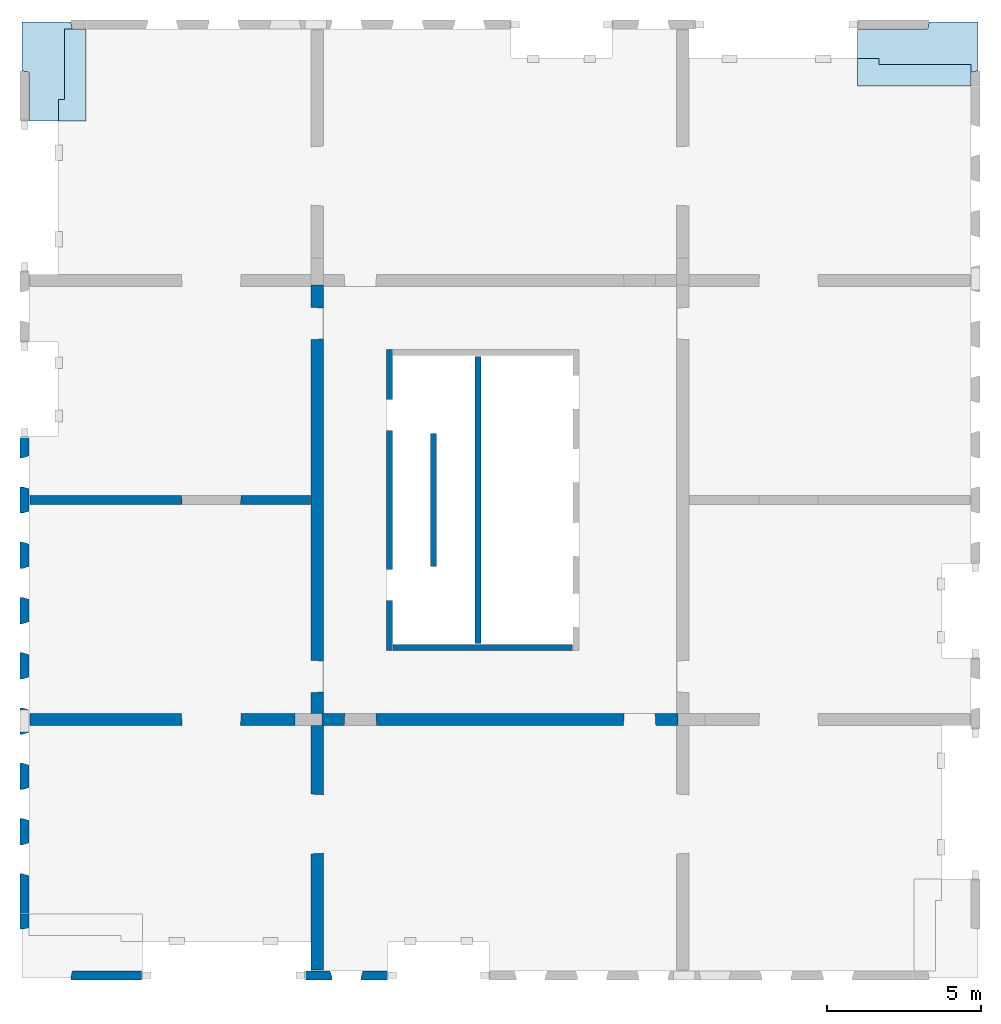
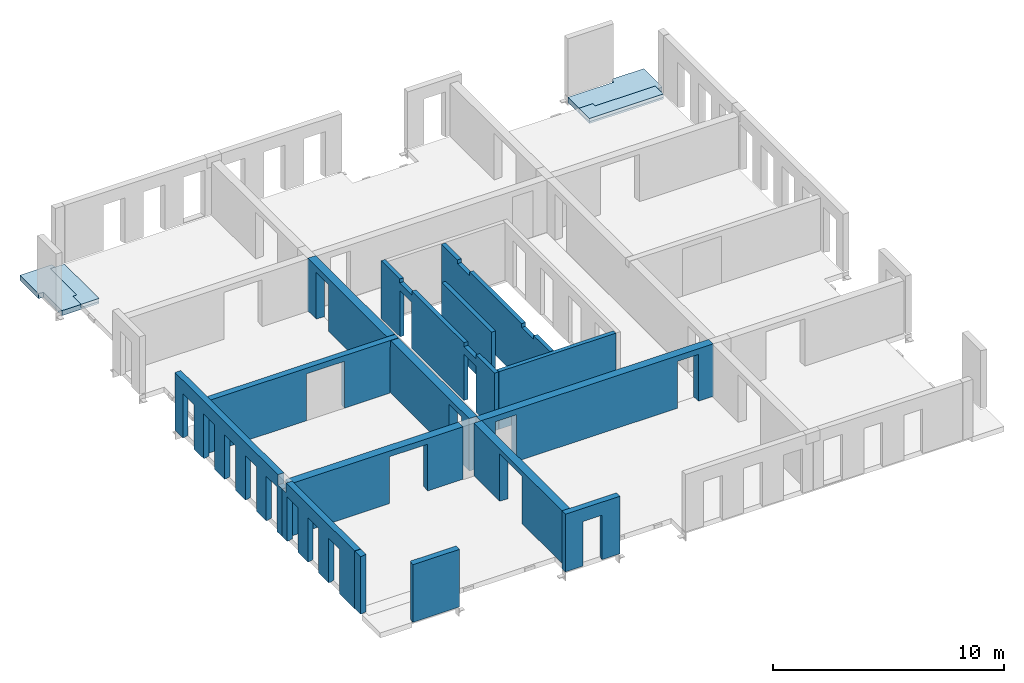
# One storey, part 2 of 4: 14 walls, 4 slabs, 34 openings.
"""IFC2X3 building model written with IfcOpenShell, lengths in millimetres."""

from ifc_helpers import new_model, entity, si_unit, converted_unit, derived_unit, direction, frame, frame_2d, origin, place, context, subcontext, project, spatial, polyline, rectangle, outline, extrude, faceted_brep, material, layer, layer_set, layer_usage, type_object, element, save


model = new_model("IFC2X3")

# Units and contexts
model_context = context("Model", 3, precision=0.01, world=origin(), true_north=direction((6.12303176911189e-17, 1.0)))
body_context = subcontext(model_context, "Body", "Model", "MODEL_VIEW")
ifc_project = project(units=[si_unit("LENGTHUNIT", "METRE", prefix="MILLI"), si_unit("AREAUNIT", "SQUARE_METRE"), si_unit("VOLUMEUNIT", "CUBIC_METRE"), converted_unit("PLANEANGLEUNIT", "DEGREE", entity("IfcRatioMeasure", 0.0174532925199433), si_unit("PLANEANGLEUNIT", "RADIAN"), dimensions=[0, 0, 0, 0, 0, 0, 0]), si_unit("MASSUNIT", "GRAM", prefix="KILO"), derived_unit("MASSDENSITYUNIT", [(si_unit("MASSUNIT", "GRAM", prefix="KILO"), 1), (si_unit("LENGTHUNIT", "METRE"), -3)]), si_unit("TIMEUNIT", "SECOND"), si_unit("FREQUENCYUNIT", "HERTZ"), si_unit("THERMODYNAMICTEMPERATUREUNIT", "DEGREE_CELSIUS"), derived_unit("THERMALTRANSMITTANCEUNIT", [(si_unit("MASSUNIT", "GRAM", prefix="KILO"), 1), (si_unit("THERMODYNAMICTEMPERATUREUNIT", "KELVIN"), -1), (si_unit("TIMEUNIT", "SECOND"), -3)]), derived_unit("VOLUMETRICFLOWRATEUNIT", [(si_unit("LENGTHUNIT", "METRE"), 3), (si_unit("TIMEUNIT", "SECOND"), -1)]), si_unit("ELECTRICCURRENTUNIT", "AMPERE"), si_unit("ELECTRICVOLTAGEUNIT", "VOLT"), si_unit("POWERUNIT", "WATT"), si_unit("FORCEUNIT", "NEWTON", prefix="KILO"), si_unit("ILLUMINANCEUNIT", "LUX"), si_unit("LUMINOUSFLUXUNIT", "LUMEN"), si_unit("LUMINOUSINTENSITYUNIT", "CANDELA"), derived_unit("USERDEFINED", [(si_unit("MASSUNIT", "GRAM", prefix="KILO"), -1), (si_unit("LENGTHUNIT", "METRE"), -2), (si_unit("TIMEUNIT", "SECOND"), 3), (si_unit("LUMINOUSFLUXUNIT", "LUMEN"), 1)]), derived_unit("LINEARVELOCITYUNIT", [(si_unit("LENGTHUNIT", "METRE"), 1), (si_unit("TIMEUNIT", "SECOND"), -1)]), si_unit("PRESSUREUNIT", "PASCAL"), derived_unit("USERDEFINED", [(si_unit("LENGTHUNIT", "METRE"), -2), (si_unit("MASSUNIT", "GRAM", prefix="KILO"), 1), (si_unit("TIMEUNIT", "SECOND"), -2)])], contexts=[model_context])

# Site, building, storey
site_placement = place(None, origin())
site = spatial("IfcSite", under=ifc_project, at=site_placement, Name="Default", CompositionType="ELEMENT")
building_placement = place(site_placement, origin())
building = spatial("IfcBuilding", under=site, at=building_placement, Name="niet gebruiken", CompositionType="ELEMENT")
storey_placement = place(building_placement, frame((0.0, 0.0, 109800.0)))
storey = spatial("IfcBuildingStorey", under=building, at=storey_placement, Name="35 vijfendertigste verdieping", CompositionType="ELEMENT", Elevation=109800.0)

# Slabs
ifc_material_1 = material(Name="NLRS_f2_beton prefab")
ifc_layer_1 = layer(ifc_material_1, 270.0)
ifc_layer_set_1 = layer_set([ifc_layer_1], Name="Floor:NLRS_23.22_FL_beton prefab d=270 3D element_gen")
ifc_layer_usage_1 = layer_usage(ifc_layer_set_1, "AXIS3", "POSITIVE", 0.0)
slab_1_placement = place(storey_placement, origin())
element("IfcSlab", 1, at=slab_1_placement, inside=storey, material=ifc_layer_usage_1, Name="Floor:NLRS_23.22_FL_beton prefab d=270 3D element_gen", ObjectType="Floor:NLRS_23.22_FL_beton prefab d=270 3D element_gen", PredefinedType="LANDING", context=body_context, shape_type="SweptSolid", body=[
    extrude(outline(polyline([(-322.675940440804, -982.471394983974), (1267.47139498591, -982.471394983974), (1267.47139498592, 607.675940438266), (1034.47139498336, 655.152429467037), (1034.47139498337, 1100.5286050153), (-1955.52860501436, 1100.52860501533), (-1955.52860501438, -749.471394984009), (-370.152429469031, -749.471394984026), (-322.675940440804, -982.471394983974)])), frame((127169.471394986, 31795.5286050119, -90.0), z_axis=(0.0, 0.0, -1.0), x_axis=(0.0, 1.0, 0.0)), (0.0, 0.0, 1.0), 270.000000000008),
])
ifc_material_2 = material(Name="NLRS_f2_beton ihwg")
ifc_layer_2 = layer(ifc_material_2, 170.0)
ifc_layer_set_2 = layer_set([ifc_layer_2], Name="Floor:NLRS_23.21_FL_beton ihwg d=170_gen")
ifc_layer_usage_2 = layer_usage(ifc_layer_set_2, "AXIS3", "POSITIVE", 0.0)
slab_2_placement = place(storey_placement, origin())
element("IfcSlab", 2, at=slab_2_placement, inside=storey, material=ifc_layer_usage_2, Name="Floor:NLRS_23.21_FL_beton ihwg d=170_gen", ObjectType="Floor:NLRS_23.21_FL_beton ihwg d=170_gen", PredefinedType="FLOOR", context=body_context, shape_type="SweptSolid", body=[
    extrude(outline(polyline([(-1230.0, -366.666666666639), (-530.0, -366.666666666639), (-530.0, -166.66666666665), (1760.0, -166.666666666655), (1760.0, 533.333333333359), (-1230.0, 533.333333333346), (-1230.0, -366.666666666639)])), frame((127736.666666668, 31070.0, -90.0), z_axis=(0.0, 0.0, -1.0), x_axis=(0.0, 1.0, 0.0)), (0.0, 0.0, 1.0), 169.999999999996),
])
ifc_layer_usage_3 = layer_usage(ifc_layer_set_1, "AXIS3", "POSITIVE", 0.0)
slab_3_placement = place(storey_placement, origin())
element("IfcSlab", 3, at=slab_3_placement, inside=storey, material=ifc_layer_usage_3, Name="Floor:NLRS_23.22_FL_beton prefab d=270 3D element_gen", ObjectType="Floor:NLRS_23.22_FL_beton prefab d=270 3D element_gen", PredefinedType="LANDING", context=body_context, shape_type="SweptSolid", body=[
    extrude(outline(polyline([(-1100.52860501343, -2480.52860501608), (749.471394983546, -2480.52860501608), (749.471394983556, -195.152429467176), (982.471394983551, -147.675940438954), (982.471394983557, 1442.47139498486), (-607.675940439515, 1442.47139498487), (-655.152429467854, 1209.47139498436), (-1100.52860501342, 1209.47139498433), (-1100.52860501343, -2480.52860501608)])), frame((155870.528605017, 32080.5286050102, -90.0), z_axis=(0.0, 0.0, -1.0), x_axis=(0.0, 1.0, 0.0)), (0.0, 0.0, 1.0), 270.000000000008),
])
ifc_layer_usage_4 = layer_usage(ifc_layer_set_2, "AXIS3", "POSITIVE", 0.0)
slab_4_placement = place(storey_placement, origin())
element("IfcSlab", 4, at=slab_4_placement, inside=storey, material=ifc_layer_usage_4, Name="Floor:NLRS_23.21_FL_beton ihwg d=170_gen", ObjectType="Floor:NLRS_23.21_FL_beton ihwg d=170_gen", PredefinedType="FLOOR", context=body_context, shape_type="SweptSolid", body=[
    extrude(outline(polyline([(-533.333333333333, -1463.33333333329), (366.666666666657, -1463.33333333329), (366.666666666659, -763.333333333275), (166.66666666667, -763.333333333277), (166.666666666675, 2226.66666666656), (-533.333333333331, 2226.66666666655), (-533.333333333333, -1463.33333333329)])), frame((154853.333333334, 31513.3333333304, -90.0), z_axis=(0.0, 0.0, -1.0), x_axis=(0.0, 1.0, 0.0)), (0.0, 0.0, 1.0), 169.999999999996),
])

# Wall, openings
ifc_layer_3 = layer(ifc_material_1, 200.0)
ifc_layer_set_3 = layer_set([ifc_layer_3], Name="Basic Wall:NLRS_22.21_WA_beton prefab d=200_gen")
ifc_layer_usage_5 = layer_usage(ifc_layer_set_3, "AXIS2", "NEGATIVE", 100.0)
wall_type_1 = type_object("IfcWallType", Name="Basic Wall:NLRS_22.21_WA_beton prefab d=200_gen", PredefinedType="STANDARD", material=ifc_layer_set_3)
wall_1_placement = place(storey_placement, frame((138150.0, 22400.0, -50.0), z_axis=(0.0, 0.0, 1.0), x_axis=(0.0, -1.0, 0.0)))
wall_1 = element("IfcWallStandardCase", 5, at=wall_1_placement, inside=storey, type_object=wall_type_1, material=ifc_layer_usage_5, Name="Basic Wall:NLRS_22.21_WA_beton prefab d=200_gen", ObjectType="Basic Wall:NLRS_22.21_WA_beton prefab d=200_gen", context=body_context, shape_type="SweptSolid", body=[
    extrude(rectangle(XDim=9800.0, YDim=199.999999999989, at=frame_2d((4900.0, 3.76587649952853e-13), x_axis=(-1.0, 0.0))), origin(), (0.0, 0.0, 1.0), 3040.0),
])
opening_1_placement = place(wall_1_placement, origin())
element("IfcOpeningElement", 6, at=opening_1_placement, cuts=wall_1, Name="Basic Wall:NLRS_22.21_WA_beton prefab d=200_gen", ObjectType="Opening", context=body_context, shape_type="SweptSolid", body=[
    extrude(rectangle(XDim=200.000000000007, YDim=1044.0, at=frame_2d((-8.66862137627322e-12, 0.0), x_axis=(1.0, 0.0))), frame((7672.0, -100.0, 2940.0), z_axis=(0.0, 1.0, 0.0), x_axis=(0.0, 0.0, -1.0)), (0.0, 0.0, 1.0), 199.999999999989),
])
opening_2_placement = place(wall_1_placement, origin())
element("IfcOpeningElement", 7, at=opening_2_placement, cuts=wall_1, Name="Basic Wall:NLRS_22.21_WA_beton prefab d=200_gen", ObjectType="Opening", context=body_context, shape_type="SweptSolid", body=[
    extrude(rectangle(XDim=200.000000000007, YDim=1044.0, at=frame_2d((-8.66862137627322e-12, 2.1600499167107e-12), x_axis=(1.0, 0.0))), frame((2128.0, -100.0, 2940.0), z_axis=(0.0, 1.0, 0.0), x_axis=(0.0, 0.0, -1.0)), (0.0, 0.0, 1.0), 199.999999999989),
])
opening_3_placement = place(wall_1_placement, origin())
element("IfcOpeningElement", 8, at=opening_3_placement, cuts=wall_1, Name="Basic Wall:NLRS_22.21_WA_beton prefab d=200_gen", ObjectType="Opening", context=body_context, shape_type="SweptSolid", body=[
    extrude(rectangle(XDim=2435.0, YDim=1015.99999999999, at=frame_2d((0.0, 1.10844666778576e-12), x_axis=(1.0, 0.0))), frame((7672.0, -100.0, 1217.50000000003), z_axis=(0.0, 1.0, 0.0), x_axis=(0.0, 0.0, -1.0)), (0.0, 0.0, 1.0), 199.999999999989),
])
opening_4_placement = place(wall_1_placement, origin())
element("IfcOpeningElement", 9, at=opening_4_placement, cuts=wall_1, Name="Basic Wall:NLRS_22.21_WA_beton prefab d=200_gen", ObjectType="Opening", context=body_context, shape_type="SweptSolid", body=[
    extrude(rectangle(XDim=2435.0, YDim=1015.99999999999, at=frame_2d((0.0, -2.18847162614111e-12), x_axis=(1.0, 0.0))), frame((2128.0, -100.0, 1217.50000000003), z_axis=(0.0, 1.0, 0.0), x_axis=(0.0, 0.0, -1.0)), (0.0, 0.0, 1.0), 199.999999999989),
])

ifc_layer_usage_6 = layer_usage(ifc_layer_set_3, "AXIS2", "NEGATIVE", 100.0)
wall_2_placement = place(storey_placement, frame((141030.0, 22180.0, -50.0), z_axis=(0.0, 0.0, 1.0), x_axis=(0.0, -1.0, 0.0)))
wall_2 = element("IfcWallStandardCase", 10, at=wall_2_placement, inside=storey, type_object=wall_type_1, material=ifc_layer_usage_6, Name="Basic Wall:NLRS_22.21_WA_beton prefab d=200_gen", ObjectType="Basic Wall:NLRS_22.21_WA_beton prefab d=200_gen", context=body_context, shape_type="SweptSolid", body=[
    extrude(rectangle(XDim=9360.0, YDim=199.999999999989, at=frame_2d((4680.0, -2.8421709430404e-14), x_axis=(-1.0, 0.0))), origin(), (0.0, 0.0, 1.0), 3040.0),
])
opening_5_placement = place(wall_2_placement, origin())
element("IfcOpeningElement", 11, at=opening_5_placement, cuts=wall_2, Name="Basic Wall:NLRS_22.21_WA_beton prefab d=200_gen", ObjectType="Opening", context=body_context, shape_type="SweptSolid", body=[
    extrude(rectangle(XDim=70.0000000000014, YDim=1044.00000000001, at=frame_2d((-8.66506866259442e-12, 0.0), x_axis=(1.0, 0.0))), frame((7452.0, -100.0, 35.0), z_axis=(0.0, 1.0, 0.0), x_axis=(0.0, 0.0, -1.0)), (0.0, 0.0, 1.0), 199.999999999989),
])
opening_6_placement = place(wall_2_placement, origin())
element("IfcOpeningElement", 12, at=opening_6_placement, cuts=wall_2, Name="Basic Wall:NLRS_22.21_WA_beton prefab d=200_gen", ObjectType="Opening", context=body_context, shape_type="SweptSolid", body=[
    extrude(rectangle(XDim=70.0000000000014, YDim=1044.00000000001, at=frame_2d((-8.66506866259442e-12, 0.0), x_axis=(1.0, 0.0))), frame((1908.0, -100.0, 35.0), z_axis=(0.0, 1.0, 0.0), x_axis=(0.0, 0.0, -1.0)), (0.0, 0.0, 1.0), 199.999999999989),
])
opening_7_placement = place(wall_2_placement, origin())
element("IfcOpeningElement", 13, at=opening_7_placement, cuts=wall_2, Name="Basic Wall:NLRS_22.21_WA_beton prefab d=200_gen", ObjectType="Opening", context=body_context, shape_type="SweptSolid", body=[
    extrude(rectangle(XDim=200.000000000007, YDim=1044.00000000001, at=frame_2d((-8.66862137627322e-12, 0.0), x_axis=(1.0, 0.0))), frame((1908.0, -100.0, 2940.0), z_axis=(0.0, 1.0, 0.0), x_axis=(0.0, 0.0, -1.0)), (0.0, 0.0, 1.0), 199.999999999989),
])
opening_8_placement = place(wall_2_placement, origin())
element("IfcOpeningElement", 14, at=opening_8_placement, cuts=wall_2, Name="Basic Wall:NLRS_22.21_WA_beton prefab d=200_gen", ObjectType="Opening", context=body_context, shape_type="SweptSolid", body=[
    extrude(rectangle(XDim=200.000000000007, YDim=1044.00000000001, at=frame_2d((-8.66862137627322e-12, 0.0), x_axis=(1.0, 0.0))), frame((7452.0, -100.0, 2940.0), z_axis=(0.0, 1.0, 0.0), x_axis=(0.0, 0.0, -1.0)), (0.0, 0.0, 1.0), 199.999999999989),
])
opening_9_placement = place(wall_2_placement, origin())
element("IfcOpeningElement", 15, at=opening_9_placement, cuts=wall_2, Name="Basic Wall:NLRS_22.21_WA_beton prefab d=200_gen", ObjectType="Recess", context=body_context, shape_type="SweptSolid", body=[
    extrude(rectangle(XDim=399.999999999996, YDim=280.000000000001, at=frame_2d((-2.1600499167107e-12, -8.66862137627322e-12), x_axis=(0.0, 1.0))), frame((770.0, -60.0, 438.0), z_axis=(0.0, 1.0, 0.0), x_axis=(1.0, 0.0, 0.0)), (0.0, 0.0, 1.0), 159.999999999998),
])
opening_10_placement = place(wall_2_placement, origin())
element("IfcOpeningElement", 16, at=opening_10_placement, cuts=wall_2, Name="Basic Wall:NLRS_22.21_WA_beton prefab d=200_gen", ObjectType="Recess", context=body_context, shape_type="SweptSolid", body=[
    extrude(rectangle(XDim=399.999999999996, YDim=280.000000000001, at=frame_2d((-2.1600499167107e-12, -8.66862137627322e-12), x_axis=(0.0, 1.0))), frame((1570.0, -60.0, 438.0), z_axis=(0.0, 1.0, 0.0), x_axis=(1.0, 0.0, 0.0)), (0.0, 0.0, 1.0), 159.999999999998),
])
opening_11_placement = place(wall_2_placement, origin())
element("IfcOpeningElement", 17, at=opening_11_placement, cuts=wall_2, Name="Basic Wall:NLRS_22.21_WA_beton prefab d=200_gen", ObjectType="Recess", context=body_context, shape_type="SweptSolid", body=[
    extrude(rectangle(XDim=399.999999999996, YDim=279.999999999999, at=frame_2d((-1.08002495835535e-12, -8.66862137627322e-12), x_axis=(0.0, 1.0))), frame((3160.0, -60.0, 438.0), z_axis=(0.0, 1.0, 0.0), x_axis=(1.0, 0.0, 0.0)), (0.0, 0.0, 1.0), 159.999999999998),
])
opening_12_placement = place(wall_2_placement, origin())
element("IfcOpeningElement", 18, at=opening_12_placement, cuts=wall_2, Name="Basic Wall:NLRS_22.21_WA_beton prefab d=200_gen", ObjectType="Recess", context=body_context, shape_type="SweptSolid", body=[
    extrude(rectangle(XDim=399.999999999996, YDim=279.999999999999, at=frame_2d((1.08002495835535e-12, -8.66862137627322e-12), x_axis=(0.0, 1.0))), frame((3960.0, -60.0, 438.0), z_axis=(0.0, 1.0, 0.0), x_axis=(1.0, 0.0, 0.0)), (0.0, 0.0, 1.0), 159.999999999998),
])

# Walls
ifc_layer_usage_7 = layer_usage(ifc_layer_set_3, "AXIS2", "NEGATIVE", 100.0)
wall_3_placement = place(storey_placement, frame((139590.0, 19660.0, -50.0), z_axis=(0.0, 0.0, 1.0), x_axis=(0.0, -1.0, 0.0)))
element("IfcWallStandardCase", 19, at=wall_3_placement, inside=storey, type_object=wall_type_1, material=ifc_layer_usage_7, Name="Basic Wall:NLRS_22.21_WA_beton prefab d=200_gen", ObjectType="Basic Wall:NLRS_22.21_WA_beton prefab d=200_gen", context=body_context, shape_type="SweptSolid", body=[
    extrude(rectangle(XDim=4320.00000000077, YDim=199.999999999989, at=frame_2d((2160.00000000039, 0.0), x_axis=(-1.0, 0.0))), origin(), (0.0, 0.0, 1.0), 3040.0),
])
ifc_layer_usage_8 = layer_usage(ifc_layer_set_3, "AXIS2", "NEGATIVE", 100.0)
wall_4_placement = place(storey_placement, frame((138270.0, 12700.0, -50.0)))
element("IfcWallStandardCase", 20, at=wall_4_placement, inside=storey, type_object=wall_type_1, material=ifc_layer_usage_8, Name="Basic Wall:NLRS_22.21_WA_beton prefab d=200_gen", ObjectType="Basic Wall:NLRS_22.21_WA_beton prefab d=200_gen", context=body_context, shape_type="SweptSolid", body=[
    extrude(rectangle(XDim=5839.99999999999, YDim=199.999999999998, at=frame_2d((2919.99999999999, -6.82121026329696e-13), x_axis=(-1.0, 0.0))), origin(), (0.0, 0.0, 1.0), 3040.0),
])

# Wall, openings
ifc_layer_4 = layer(ifc_material_1, 300.0)
ifc_layer_set_4 = layer_set([ifc_layer_4], Name="Basic Wall:NLRS_22.21_WA_beton prefab d=300_gen")
ifc_layer_usage_9 = layer_usage(ifc_layer_set_4, "AXIS2", "NEGATIVE", 150.0)
wall_type_2 = type_object("IfcWallType", Name="Basic Wall:NLRS_22.21_WA_beton prefab d=300_gen", PredefinedType="STANDARD", material=ifc_layer_set_4)
wall_5_placement = place(storey_placement, frame((126440.0, 17500.0, -70.0)))
wall_5 = element("IfcWallStandardCase", 21, at=wall_5_placement, inside=storey, type_object=wall_type_2, material=ifc_layer_usage_9, Name="Basic Wall:NLRS_22.21_WA_beton prefab d=300_gen", ObjectType="Basic Wall:NLRS_22.21_WA_beton prefab d=300_gen", context=body_context, shape_type="SweptSolid", body=[
    extrude(rectangle(XDim=9559.9999999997, YDim=300.000000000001, at=frame_2d((4779.99999999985, -5.54223333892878e-13), x_axis=(-1.0, 0.0))), origin(), (0.0, 0.0, 1.0), 2769.99999999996),
])
opening_13_placement = place(wall_5_placement, frame((4942.0, -150.0, 0.0)))
element("IfcOpeningElement", 22, at=opening_13_placement, cuts=wall_5, Name="Basic Wall:NLRS_22.21_WA_beton prefab d=300_gen", ObjectType="Opening", context=body_context, shape_type="Brep", body=[
    faceted_brep([(1918.0, 0.0, 2470.0), (18.0, 0.0, 2470.0), (18.0, 0.0, 0.0), (1918.0, 0.0, 0.0), (1936.0, 300.0, 2488.0), (1936.0, 300.0, 0.0), (0.0, 300.0, 0.0), (0.0, 300.0, 2488.0)], [[[0, 1, 2, 3]], [[4, 5, 6, 7]], [[4, 7, 1, 0]], [[7, 6, 2, 1]], [[6, 5, 3, 2]], [[5, 4, 0, 3]]]),
])
opening_14_placement = place(wall_5_placement, origin())
element("IfcOpeningElement", 23, at=opening_14_placement, cuts=wall_5, Name="Basic Wall:NLRS_22.21_WA_beton prefab d=300_gen", ObjectType="Opening", context=body_context, shape_type="SweptSolid", body=[
    extrude(rectangle(XDim=2439.99999999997, YDim=420.000000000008, at=frame_2d((0.0, 0.0), x_axis=(0.0, 1.0))), frame((9350.0, 150.0, 1220.0), z_axis=(0.0, -1.0, 0.0), x_axis=(1.0, 0.0, 0.0)), (0.0, 0.0, 1.0), 300.0),
])

# Wall, opening
ifc_layer_5 = layer(ifc_material_1, 400.0)
ifc_layer_set_5 = layer_set([ifc_layer_5], Name="Basic Wall:NLRS_22.21_WA_beton prefab d=400_gen")
ifc_layer_usage_10 = layer_usage(ifc_layer_set_5, "AXIS2", "NEGATIVE", 200.0)
wall_type_3 = type_object("IfcWallType", Name="Basic Wall:NLRS_22.21_WA_beton prefab d=400_gen", PredefinedType="STANDARD", material=ifc_layer_set_5)
wall_6_placement = place(storey_placement, frame((135800.0, 10150.0, -70.0), z_axis=(0.0, 0.0, 1.0), x_axis=(0.0, -1.0, 0.0)))
wall_6 = element("IfcWallStandardCase", 24, at=wall_6_placement, inside=storey, type_object=wall_type_3, material=ifc_layer_usage_10, Name="Basic Wall:NLRS_22.21_WA_beton prefab d=400_gen", ObjectType="Basic Wall:NLRS_22.21_WA_beton prefab d=400_gen", context=body_context, shape_type="SweptSolid", body=[
    extrude(rectangle(XDim=7959.99999999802, YDim=400.000000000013, at=frame_2d((3979.99999999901, 4.54747350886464e-13), x_axis=(-1.0, 0.0))), origin(), (0.0, 0.0, 1.0), 2770.00000000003),
])
opening_15_placement = place(wall_6_placement, frame((4174.0, -200.0, 0.0)))
element("IfcOpeningElement", 25, at=opening_15_placement, cuts=wall_6, Name="Basic Wall:NLRS_22.21_WA_beton prefab d=400_gen", ObjectType="Opening", context=body_context, shape_type="Brep", body=[
    faceted_brep([(-24.0, 400.0, 2470.0), (-24.0, 400.0, 0.0), (-1924.0, 400.0, 0.0), (-1924.0, 400.0, 2470.0), (0.0, 0.0, 2494.0), (-1948.0, 0.0, 2494.0), (-1948.0, 0.0, 0.0), (0.0, 0.0, 0.0)], [[[0, 1, 2, 3]], [[4, 5, 6, 7]], [[4, 0, 3, 5]], [[5, 3, 2, 6]], [[6, 2, 1, 7]], [[7, 1, 0, 4]]]),
])

# Wall, openings
ifc_layer_usage_11 = layer_usage(ifc_layer_set_5, "AXIS2", "NEGATIVE", 200.0)
wall_7_placement = place(storey_placement, frame((135950.003540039, 10350.0, -70.0)))
wall_7 = element("IfcWallStandardCase", 26, at=wall_7_placement, inside=storey, type_object=wall_type_3, material=ifc_layer_usage_11, Name="Basic Wall:NLRS_22.21_WA_beton prefab d=400_gen", ObjectType="Basic Wall:NLRS_22.21_WA_beton prefab d=400_gen", context=body_context, shape_type="SweptSolid", body=[
    extrude(rectangle(XDim=11599.9964599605, YDim=400.0, at=frame_2d((5799.99822998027, 1.56319401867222e-13), x_axis=(-1.0, 0.0))), origin(), (0.0, 0.0, 1.0), 2770.00000000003),
])
opening_16_placement = place(wall_7_placement, frame((725.996459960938, -200.0, 0.0)))
element("IfcOpeningElement", 27, at=opening_16_placement, cuts=wall_7, Name="Basic Wall:NLRS_22.21_WA_beton prefab d=400_gen", ObjectType="Opening", context=body_context, shape_type="Brep", body=[
    faceted_brep([(0.0, 0.0, 2472.0), (24.0, 400.0, 2448.0), (24.0, 400.0, 0.0), (0.0, 0.0, 0.0), (1030.0, 400.0, 0.0), (1054.0, 0.0, 0.0), (1030.0, 400.0, 2448.0), (1054.0, 0.0, 2472.0)], [[[0, 1, 2, 3]], [[3, 2, 4, 5]], [[6, 4, 2, 1]], [[7, 0, 3, 5]], [[7, 6, 1, 0]], [[5, 4, 6, 7]]]),
])
opening_17_placement = place(wall_7_placement, frame((9819.99645996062, -200.0, 0.0)))
element("IfcOpeningElement", 28, at=opening_17_placement, cuts=wall_7, Name="Basic Wall:NLRS_22.21_WA_beton prefab d=400_gen", ObjectType="Opening", context=body_context, shape_type="Brep", body=[
    faceted_brep([(0.0, 0.0, 2472.0), (24.0, 400.0, 2448.0), (24.0, 400.0, 0.0), (0.0, 0.0, 0.0), (1030.0, 400.0, 0.0), (1054.0, 0.0, 0.0), (1030.0, 400.0, 2448.0), (1054.0, 0.0, 2472.0)], [[[0, 1, 2, 3]], [[3, 2, 4, 5]], [[6, 4, 2, 1]], [[7, 0, 3, 5]], [[7, 6, 1, 0]], [[5, 4, 6, 7]]]),
])

# Wall, opening
ifc_layer_usage_12 = layer_usage(ifc_layer_set_5, "AXIS2", "NEGATIVE", 200.0)
wall_8_placement = place(storey_placement, frame((126440.0, 10350.0, -70.0)))
wall_8 = element("IfcWallStandardCase", 29, at=wall_8_placement, inside=storey, type_object=wall_type_3, material=ifc_layer_usage_12, Name="Basic Wall:NLRS_22.21_WA_beton prefab d=400_gen", ObjectType="Basic Wall:NLRS_22.21_WA_beton prefab d=400_gen", context=body_context, shape_type="SweptSolid", body=[
    extrude(rectangle(XDim=8630.00354003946, YDim=400.0, at=frame_2d((4315.00177001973, -2.70006239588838e-13), x_axis=(-1.0, 0.0))), origin(), (0.0, 0.0, 1.0), 2770.00000000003),
])
opening_18_placement = place(wall_8_placement, frame((4936.0, -200.0, 0.0)))
element("IfcOpeningElement", 30, at=opening_18_placement, cuts=wall_8, Name="Basic Wall:NLRS_22.21_WA_beton prefab d=400_gen", ObjectType="Opening", context=body_context, shape_type="Brep", body=[
    faceted_brep([(1924.0, 0.0, 2470.0), (24.0, 0.0, 2470.0), (24.0, 0.0, 0.0), (1924.0, 0.0, 0.0), (1948.0, 400.0, 2494.0), (1948.0, 400.0, 0.0), (0.0, 400.0, 0.0), (0.0, 400.0, 2494.0)], [[[0, 1, 2, 3]], [[4, 5, 6, 7]], [[4, 7, 1, 0]], [[7, 6, 2, 1]], [[6, 5, 3, 2]], [[5, 4, 0, 3]]]),
])

# Wall, openings
ifc_layer_usage_13 = layer_usage(ifc_layer_set_5, "AXIS2", "NEGATIVE", 200.0)
wall_9_placement = place(storey_placement, frame((135800.0, 24500.0, -70.0), z_axis=(0.0, 0.0, 1.0), x_axis=(0.0, -1.0, 0.0)))
wall_9 = element("IfcWallStandardCase", 31, at=wall_9_placement, inside=storey, type_object=wall_type_3, material=ifc_layer_usage_13, Name="Basic Wall:NLRS_22.21_WA_beton prefab d=400_gen", ObjectType="Basic Wall:NLRS_22.21_WA_beton prefab d=400_gen", context=body_context, shape_type="SweptSolid", body=[
    extrude(rectangle(XDim=13950.0, YDim=400.000000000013, at=frame_2d((6974.99999999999, 2.8421709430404e-14), x_axis=(-1.0, 0.0))), origin(), (0.0, 0.0, 1.0), 2770.00000000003),
])
opening_19_placement = place(wall_9_placement, frame((13274.0, -200.0, 0.0)))
element("IfcOpeningElement", 32, at=opening_19_placement, cuts=wall_9, Name="Basic Wall:NLRS_22.21_WA_beton prefab d=400_gen", ObjectType="Opening", context=body_context, shape_type="Brep", body=[
    faceted_brep([(-1054.0, 0.0, 2472.0), (-1030.0, 400.0, 2448.0), (-1030.0, 400.0, 0.0), (-1054.0, 0.0, 0.0), (-24.0, 400.0, 0.0), (0.0, 0.0, 0.0), (-24.0, 400.0, 2448.0), (0.0, 0.0, 2472.0)], [[[0, 1, 2, 3]], [[3, 2, 4, 5]], [[6, 4, 2, 1]], [[7, 0, 3, 5]], [[7, 6, 1, 0]], [[5, 4, 6, 7]]]),
])
opening_20_placement = place(wall_9_placement, frame((1780.0, -200.0, 0.0)))
element("IfcOpeningElement", 33, at=opening_20_placement, cuts=wall_9, Name="Basic Wall:NLRS_22.21_WA_beton prefab d=400_gen", ObjectType="Opening", context=body_context, shape_type="Brep", body=[
    faceted_brep([(-1054.0, 0.0, 2472.0), (-1030.0, 400.0, 2448.0), (-1030.0, 400.0, 0.0), (-1054.0, 0.0, 0.0), (-24.0, 400.0, 0.0), (0.0, 0.0, 0.0), (-24.0, 400.0, 2448.0), (0.0, 0.0, 2472.0)], [[[0, 1, 2, 3]], [[3, 2, 4, 5]], [[6, 4, 2, 1]], [[7, 0, 3, 5]], [[7, 6, 1, 0]], [[5, 4, 6, 7]]]),
])
opening_21_placement = place(wall_9_placement, origin())
element("IfcOpeningElement", 34, at=opening_21_placement, cuts=wall_9, Name="Basic Wall:NLRS_22.21_WA_beton prefab d=400_gen", ObjectType="Opening", context=body_context, shape_type="SweptSolid", body=[
    extrude(rectangle(XDim=350.000000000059, YDim=339.999999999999, at=frame_2d((-1.08002495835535e-12, -1.73230318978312e-11), x_axis=(0.0, 1.0))), frame((7000.0, 200.0, 2595.0), z_axis=(0.0, -1.0, 0.0), x_axis=(-1.0, 0.0, 0.0)), (0.0, 0.0, 1.0), 400.0),
])

# Wall, opening
ifc_layer_6 = layer(ifc_material_1, 300.0)
ifc_layer_set_6 = layer_set([ifc_layer_6], Name="Basic Wall:NLRS_21.21_WA_beton prefab d=300/320_gen")
ifc_layer_usage_14 = layer_usage(ifc_layer_set_6, "AXIS2", "NEGATIVE", 150.0)
wall_type_4 = type_object("IfcWallType", Name="Basic Wall:NLRS_21.21_WA_beton prefab d=300/320_gen", PredefinedType="STANDARD", material=ifc_layer_set_6)
wall_10_placement = place(storey_placement, frame((138110.0, 2020.0, -50.0), z_axis=(0.0, 0.0, 1.0), x_axis=(-1.0, 0.0, 0.0)))
wall_10 = element("IfcWallStandardCase", 35, at=wall_10_placement, inside=storey, type_object=wall_type_4, material=ifc_layer_usage_14, Name="Basic Wall:NLRS_21.21_WA_beton prefab d=300/320_gen", ObjectType="Basic Wall:NLRS_21.21_WA_beton prefab d=300/320_gen", context=body_context, shape_type="SweptSolid", body=[
    extrude(rectangle(XDim=2720.00000000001, YDim=300.0, at=frame_2d((1360.0, -8.5265128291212e-14), x_axis=(-1.0, 0.0))), origin(), (0.0, 0.0, 1.0), 3040.0),
])
opening_22_placement = place(wall_10_placement, frame((1895.0, 150.0, -20.0)))
element("IfcOpeningElement", 36, at=opening_22_placement, cuts=wall_10, Name="Basic Wall:NLRS_21.21_WA_beton prefab d=300/320_gen", ObjectType="Opening", context=body_context, shape_type="Brep", body=[
    faceted_brep([(-1070.0, -300.0, 2405.0), (-1070.0, -300.0, 0.0), (0.0, -300.0, 0.0), (0.0, -300.0, 2405.0), (-65.0, -81.0, 2370.0), (-1005.0, -81.0, 2370.0), (-65.0, -81.0, 0.0), (-1005.0, -81.0, 0.0), (-1005.0, 0.0, 0.0), (-65.0, 0.0, 0.0), (-1005.0, 0.0, 2370.0), (-65.0, 0.0, 2370.0)], [[[0, 1, 2, 3]], [[3, 4, 5, 0]], [[2, 6, 4, 3]], [[1, 7, 8, 9, 6, 2]], [[0, 5, 7, 1]], [[10, 11, 9, 8]], [[10, 5, 4, 11]], [[11, 4, 6, 9]], [[8, 7, 5, 10]]]),
])

# Wall, openings
ifc_layer_usage_15 = layer_usage(ifc_layer_set_6, "AXIS2", "NEGATIVE", 150.0)
wall_11_placement = place(storey_placement, frame((126270.0, 4040.0, -50.0), z_axis=(0.0, 0.0, 1.0), x_axis=(0.0, 1.0, 0.0)))
wall_11 = element("IfcWallStandardCase", 37, at=wall_11_placement, inside=storey, type_object=wall_type_4, material=ifc_layer_usage_15, Name="Basic Wall:NLRS_21.21_WA_beton prefab d=300/320_gen", ObjectType="Basic Wall:NLRS_21.21_WA_beton prefab d=300/320_gen", context=body_context, shape_type="SweptSolid", body=[
    extrude(rectangle(XDim=6249.99999999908, YDim=300.000000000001, at=frame_2d((3124.99999999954, 0.0), x_axis=(-1.0, 0.0))), origin(), (0.0, 0.0, 1.0), 3039.99999999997),
])
opening_23_placement = place(wall_11_placement, frame((1225.0, 150.0, -20.0)))
element("IfcOpeningElement", 38, at=opening_23_placement, cuts=wall_11, Name="Basic Wall:NLRS_21.21_WA_beton prefab d=300/320_gen", ObjectType="Opening", context=body_context, shape_type="Brep", body=[
    faceted_brep([(0.0, -300.0, 2405.0), (0.0, -300.0, 0.0), (1070.0, -300.0, 0.0), (1070.0, -300.0, 2405.0), (1005.0, -81.0, 2370.0), (65.0, -81.0, 2370.0), (1005.0, -81.0, 0.0), (65.0, -81.0, 0.0), (65.0, 0.0, 0.0), (1005.0, 0.0, 0.0), (65.0, 0.0, 2370.0), (1005.0, 0.0, 2370.0)], [[[0, 1, 2, 3]], [[3, 4, 5, 0]], [[2, 6, 4, 3]], [[1, 7, 8, 9, 6, 2]], [[0, 5, 7, 1]], [[10, 11, 9, 8]], [[10, 5, 4, 11]], [[11, 4, 6, 9]], [[8, 7, 5, 10]]]),
])
opening_24_placement = place(wall_11_placement, frame((3025.0, 150.0, -20.0)))
element("IfcOpeningElement", 39, at=opening_24_placement, cuts=wall_11, Name="Basic Wall:NLRS_21.21_WA_beton prefab d=300/320_gen", ObjectType="Opening", context=body_context, shape_type="Brep", body=[
    faceted_brep([(0.0, -300.0, 2405.0), (0.0, -300.0, 0.0), (1070.0, -300.0, 0.0), (1070.0, -300.0, 2405.0), (1005.0, -81.0, 2370.0), (65.0, -81.0, 2370.0), (1005.0, -81.0, 0.0), (65.0, -81.0, 0.0), (65.0, 0.0, 0.0), (1005.0, 0.0, 0.0), (65.0, 0.0, 2370.0), (1005.0, 0.0, 2370.0)], [[[0, 1, 2, 3]], [[3, 4, 5, 0]], [[2, 6, 4, 3]], [[1, 7, 8, 9, 6, 2]], [[0, 5, 7, 1]], [[10, 11, 9, 8]], [[10, 5, 4, 11]], [[11, 4, 6, 9]], [[8, 7, 5, 10]]]),
])
opening_25_placement = place(wall_11_placement, frame((4825.0, 150.0, -20.0)))
element("IfcOpeningElement", 40, at=opening_25_placement, cuts=wall_11, Name="Basic Wall:NLRS_21.21_WA_beton prefab d=300/320_gen", ObjectType="Opening", context=body_context, shape_type="Brep", body=[
    faceted_brep([(0.0, -300.0, 2405.0), (0.0, -300.0, 0.0), (1070.0, -300.0, 0.0), (1070.0, -300.0, 2405.0), (1005.0, -81.0, 2370.0), (65.0, -81.0, 2370.0), (1005.0, -81.0, 0.0), (65.0, -81.0, 0.0), (65.0, 0.0, 0.0), (1005.0, 0.0, 0.0), (65.0, 0.0, 2370.0), (1005.0, 0.0, 2370.0)], [[[0, 1, 2, 3]], [[3, 4, 5, 0]], [[2, 6, 4, 3]], [[1, 7, 8, 9, 6, 2]], [[0, 5, 7, 1]], [[10, 11, 9, 8]], [[10, 5, 4, 11]], [[11, 4, 6, 9]], [[8, 7, 5, 10]]]),
])
opening_26_placement = place(wall_11_placement, origin())
element("IfcOpeningElement", 41, at=opening_26_placement, cuts=wall_11, Name="Basic Wall:NLRS_21.21_WA_beton prefab d=300/320_gen", ObjectType="Opening", context=body_context, shape_type="SweptSolid", body=[
    extrude(rectangle(XDim=534.99999999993, YDim=344.999999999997, at=frame_2d((0.0, 1.08002495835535e-12), x_axis=(1.0, 0.0))), frame((6077.49999999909, 150.0, 2772.5), z_axis=(0.0, -1.0, 0.0), x_axis=(0.0, 0.0, 1.0)), (0.0, 0.0, 1.0), 300.0),
])

# Wall, opening
ifc_layer_usage_16 = layer_usage(ifc_layer_set_6, "AXIS2", "NEGATIVE", 150.0)
wall_12_placement = place(storey_placement, frame((130110.0, 2020.0, -50.0), z_axis=(0.0, 0.0, 1.0), x_axis=(-1.0, 0.0, 0.0)))
wall_12 = element("IfcWallStandardCase", 42, at=wall_12_placement, inside=storey, type_object=wall_type_4, material=ifc_layer_usage_16, Name="Basic Wall:NLRS_21.21_WA_beton prefab d=300/320_gen", ObjectType="Basic Wall:NLRS_21.21_WA_beton prefab d=300/320_gen", context=body_context, shape_type="SweptSolid", body=[
    extrude(rectangle(XDim=2330.00000000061, YDim=300.0, at=frame_2d((1165.00000000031, -5.6843418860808e-14), x_axis=(-1.0, 0.0))), origin(), (0.0, 0.0, 1.0), 3040.0),
])
opening_27_placement = place(wall_12_placement, frame((2330.0, 69.0, 0.0)))
element("IfcOpeningElement", 43, at=opening_27_placement, cuts=wall_12, Name="Basic Wall:NLRS_21.21_WA_beton prefab d=300/320_gen", ObjectType="Opening", context=body_context, shape_type="Brep", body=[
    faceted_brep([(0.0, -319.0, 3040.0), (0.0, 0.0, 3040.0), (-65.0, -319.0, 3040.0), (0.0, -319.0, 0.0), (-65.0, -319.0, 0.0), (0.0, 0.0, 0.0)], [[[0, 1, 2]], [[3, 4, 5]], [[2, 4, 3, 0]], [[0, 3, 5, 1]], [[1, 5, 4, 2]]]),
])

ifc_layer_usage_17 = layer_usage(ifc_layer_set_6, "AXIS2", "NEGATIVE", 150.0)
wall_13_placement = place(storey_placement, frame((126270.0, 3530.0, -50.0), z_axis=(0.0, 0.0, 1.0), x_axis=(0.0, 1.0, 0.0)))
wall_13 = element("IfcWallStandardCase", 44, at=wall_13_placement, inside=storey, type_object=wall_type_4, material=ifc_layer_usage_17, Name="Basic Wall:NLRS_21.21_WA_beton prefab d=300/320_gen", ObjectType="Basic Wall:NLRS_21.21_WA_beton prefab d=300/320_gen", context=body_context, shape_type="SweptSolid", body=[
    extrude(rectangle(XDim=489.999999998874, YDim=300.000000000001, at=frame_2d((244.999999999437, -3.25428572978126e-12), x_axis=(-1.0, 0.0))), origin(), (0.0, 0.0, 1.0), 3040.0),
])
opening_28_placement = place(wall_13_placement, frame((-1.97405825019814e-09, 69.0, 0.0)))
element("IfcOpeningElement", 45, at=opening_28_placement, cuts=wall_13, Name="Basic Wall:NLRS_21.21_WA_beton prefab d=300/320_gen", ObjectType="Opening", context=body_context, shape_type="Brep", body=[
    faceted_brep([(0.0, -319.0, 3040.0), (65.0, -319.0, 3040.0), (0.0, 0.0, 3040.0), (0.0, -319.0, 0.0), (0.0, 0.0, 0.0), (65.0, -319.0, 0.0)], [[[0, 1, 2]], [[3, 4, 5]], [[1, 0, 3, 5]], [[0, 2, 4, 3]], [[2, 1, 5, 4]]]),
])

# Wall, openings
ifc_layer_usage_18 = layer_usage(ifc_layer_set_6, "AXIS2", "NEGATIVE", 150.0)
wall_14_placement = place(storey_placement, frame((126270.0, 10310.0, -50.0), z_axis=(0.0, 0.0, 1.0), x_axis=(0.0, 1.0, 0.0)))
wall_14 = element("IfcWallStandardCase", 46, at=wall_14_placement, inside=storey, type_object=wall_type_4, material=ifc_layer_usage_18, Name="Basic Wall:NLRS_21.21_WA_beton prefab d=300/320_gen", ObjectType="Basic Wall:NLRS_21.21_WA_beton prefab d=300/320_gen", context=body_context, shape_type="SweptSolid", body=[
    extrude(rectangle(XDim=9250.00000000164, YDim=300.000000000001, at=frame_2d((4625.00000000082, 0.0), x_axis=(-1.0, 0.0))), origin(), (0.0, 0.0, 1.0), 3040.0),
])
opening_29_placement = place(wall_14_placement, frame((7555.0, 150.0, -20.0)))
element("IfcOpeningElement", 47, at=opening_29_placement, cuts=wall_14, Name="Basic Wall:NLRS_21.21_WA_beton prefab d=300/320_gen", ObjectType="Opening", context=body_context, shape_type="Brep", body=[
    faceted_brep([(0.0, -300.0, 2405.0), (0.0, -300.0, 0.0), (1070.0, -300.0, 0.0), (1070.0, -300.0, 2405.0), (1005.0, -81.0, 2370.0), (65.0, -81.0, 2370.0), (1005.0, -81.0, 0.0), (65.0, -81.0, 0.0), (65.0, 0.0, 0.0), (1005.0, 0.0, 0.0), (65.0, 0.0, 2370.0), (1005.0, 0.0, 2370.0)], [[[0, 1, 2, 3]], [[3, 4, 5, 0]], [[2, 6, 4, 3]], [[1, 7, 8, 9, 6, 2]], [[0, 5, 7, 1]], [[10, 11, 9, 8]], [[10, 5, 4, 11]], [[11, 4, 6, 9]], [[8, 7, 5, 10]]]),
])
opening_30_placement = place(wall_14_placement, frame((3955.0, 150.0, -20.0)))
element("IfcOpeningElement", 48, at=opening_30_placement, cuts=wall_14, Name="Basic Wall:NLRS_21.21_WA_beton prefab d=300/320_gen", ObjectType="Opening", context=body_context, shape_type="Brep", body=[
    faceted_brep([(0.0, -300.0, 2405.0), (0.0, -300.0, 0.0), (1070.0, -300.0, 0.0), (1070.0, -300.0, 2405.0), (1005.0, -81.0, 2370.0), (65.0, -81.0, 2370.0), (1005.0, -81.0, 0.0), (65.0, -81.0, 0.0), (65.0, 0.0, 0.0), (1005.0, 0.0, 0.0), (65.0, 0.0, 2370.0), (1005.0, 0.0, 2370.0)], [[[0, 1, 2, 3]], [[3, 4, 5, 0]], [[2, 6, 4, 3]], [[1, 7, 8, 9, 6, 2]], [[0, 5, 7, 1]], [[10, 11, 9, 8]], [[10, 5, 4, 11]], [[11, 4, 6, 9]], [[8, 7, 5, 10]]]),
])
opening_31_placement = place(wall_14_placement, frame((2155.0, 150.0, -20.0)))
element("IfcOpeningElement", 49, at=opening_31_placement, cuts=wall_14, Name="Basic Wall:NLRS_21.21_WA_beton prefab d=300/320_gen", ObjectType="Opening", context=body_context, shape_type="Brep", body=[
    faceted_brep([(0.0, -300.0, 2405.0), (0.0, -300.0, 0.0), (1070.0, -300.0, 0.0), (1070.0, -300.0, 2405.0), (1005.0, -81.0, 2370.0), (65.0, -81.0, 2370.0), (1005.0, -81.0, 0.0), (65.0, -81.0, 0.0), (65.0, 0.0, 0.0), (1005.0, 0.0, 0.0), (65.0, 0.0, 2370.0), (1005.0, 0.0, 2370.0)], [[[0, 1, 2, 3]], [[3, 4, 5, 0]], [[2, 6, 4, 3]], [[1, 7, 8, 9, 6, 2]], [[0, 5, 7, 1]], [[10, 11, 9, 8]], [[10, 5, 4, 11]], [[11, 4, 6, 9]], [[8, 7, 5, 10]]]),
])
opening_32_placement = place(wall_14_placement, frame((5755.0, 150.0, -20.0)))
element("IfcOpeningElement", 50, at=opening_32_placement, cuts=wall_14, Name="Basic Wall:NLRS_21.21_WA_beton prefab d=300/320_gen", ObjectType="Opening", context=body_context, shape_type="Brep", body=[
    faceted_brep([(0.0, -300.0, 2405.0), (0.0, -300.0, 0.0), (1070.0, -300.0, 0.0), (1070.0, -300.0, 2405.0), (1005.0, -81.0, 2370.0), (65.0, -81.0, 2370.0), (1005.0, -81.0, 0.0), (65.0, -81.0, 0.0), (65.0, 0.0, 0.0), (1005.0, 0.0, 0.0), (65.0, 0.0, 2370.0), (1005.0, 0.0, 2370.0)], [[[0, 1, 2, 3]], [[3, 4, 5, 0]], [[2, 6, 4, 3]], [[1, 7, 8, 9, 6, 2]], [[0, 5, 7, 1]], [[10, 11, 9, 8]], [[10, 5, 4, 11]], [[11, 4, 6, 9]], [[8, 7, 5, 10]]]),
])
opening_33_placement = place(wall_14_placement, frame((355.0, 150.0, -20.0)))
element("IfcOpeningElement", 51, at=opening_33_placement, cuts=wall_14, Name="Basic Wall:NLRS_21.21_WA_beton prefab d=300/320_gen", ObjectType="Opening", context=body_context, shape_type="Brep", body=[
    faceted_brep([(1070.0, -300.0, 2405.0), (0.0, -300.0, 2405.0), (0.0, -300.0, 0.0), (1070.0, -300.0, 0.0), (1005.0, -81.0, 2370.0), (65.0, -81.0, 2370.0), (65.0, -81.0, 0.0), (65.0, 0.0, 0.0), (1005.0, 0.0, 0.0), (1005.0, -81.0, 0.0), (1005.0, 0.0, 2370.0), (65.0, 0.0, 2370.0)], [[[0, 1, 2, 3]], [[1, 0, 4, 5]], [[2, 1, 5, 6]], [[3, 2, 6, 7, 8, 9]], [[0, 3, 9, 4]], [[10, 8, 7, 11]], [[10, 11, 5, 4]], [[11, 7, 6, 5]], [[8, 10, 4, 9]]]),
])
opening_34_placement = place(wall_14_placement, origin())
element("IfcOpeningElement", 52, at=opening_34_placement, cuts=wall_14, Name="Basic Wall:NLRS_21.21_WA_beton prefab d=300/320_gen", ObjectType="Opening", context=body_context, shape_type="SweptSolid", body=[
    extrude(rectangle(XDim=535.0, YDim=345.000000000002, at=frame_2d((1.08002495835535e-12, 0.0), x_axis=(0.0, 1.0))), frame((172.500000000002, 150.0, 2772.5), z_axis=(0.0, -1.0, 0.0), x_axis=(-1.0, 0.0, 0.0)), (0.0, 0.0, 1.0), 300.0),
])

save(model, "model.ifc")
